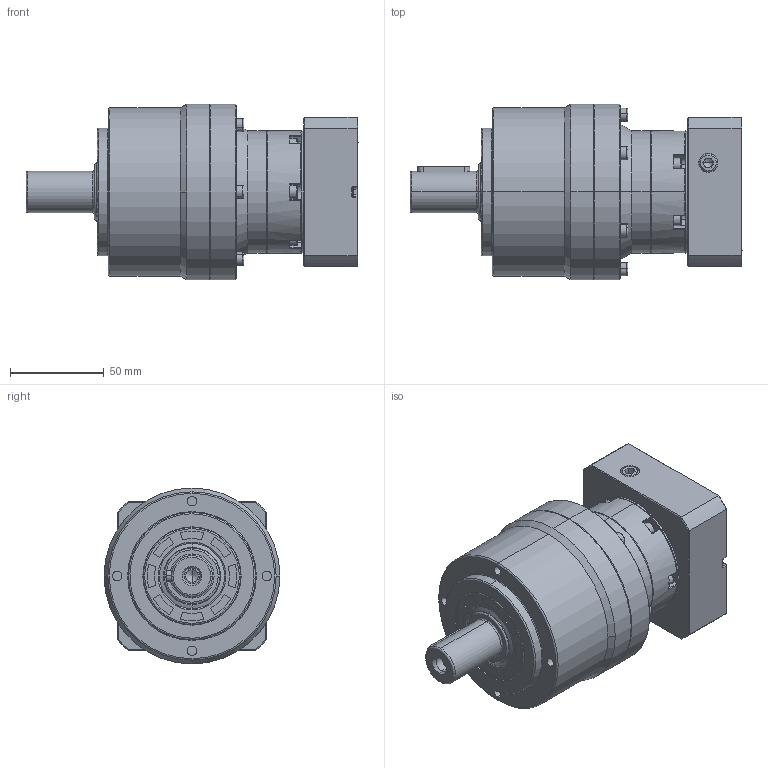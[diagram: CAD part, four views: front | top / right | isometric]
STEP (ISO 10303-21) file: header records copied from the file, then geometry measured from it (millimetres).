
FILE_DESCRIPTION (( 'STEP AP214' ), '1' );
FILE_NAME ('VRL090-L2-S2-P1 19-70-90-M5.STEP', '2021-04-25T08:55:33', ( 'User' ), ( 'china' ), 'SwSTEP 2.0', 'SolidWorks 2016', '' );
FILE_SCHEMA (( 'AUTOMOTIVE_DESIGN' ));
Length unit declared in the file: millimetre
Products named in the file (12): VRL090-L2-S2-P1 19-70-90-M5; hex socket set screws with cone point gb_GB_FASTENER_SCREWS_HSCP M10X10-N; hexagon socket head cap screws gb_GB_FASTENER_SCREWS_HSHCS M4X20-N; 坶踡遠23-43.5-12(1); 输入太阳齿轮060M1-19; 13-输入法兰VRL064M1-70X30XM5-200525; 6-输入端壳体VRL064M1; 一级内齿圈壳体VRL064D-Z108; 输出内齿圈壳体VRL090D-Z108; A倰す瑩 6-28; 蚐猾30526; 怀堤俴陎殤VRL090-5D
Assembly tree (28 placements, depth 2):
  VRL090-L2-S2-P1 19-70-90-M5
    怀堤俴陎殤VRL090-5D
    蚐猾30526
    A倰す瑩 6-28
    输出内齿圈壳体VRL090D-Z108
    一级内齿圈壳体VRL064D-Z108
    6-输入端壳体VRL064M1
    13-输入法兰VRL064M1-70X30XM5-200525
    输入太阳齿轮060M1-19
    坶踡遠23-43.5-12(1)
    hexagon socket head cap screws gb_GB_FASTENER_SCREWS_HSHCS M4X20-N  x18
    hex socket set screws with cone point gb_GB_FASTENER_SCREWS_HSCP M10X10-N
Bounding box: 177.5 x 94 x 94 mm (x, y, z)
Volume: 695423 mm3; surface area: 133448.9 mm2
Topology: 29 solids, 29 shells, 1205 faces, 2878 edges, 1738 vertices
Faces by surface type: plane 467, cylinder 320, cone 235, torus 153, bspline 30
Entity records: 42045 total; most frequent: CARTESIAN_POINT 14662, DIRECTION 4037, ORIENTED_EDGE 3672, EDGE_CURVE 1836, AXIS2_PLACEMENT_3D 1655, VERTEX_POINT 1143, EDGE_LOOP 889, CIRCLE 874
